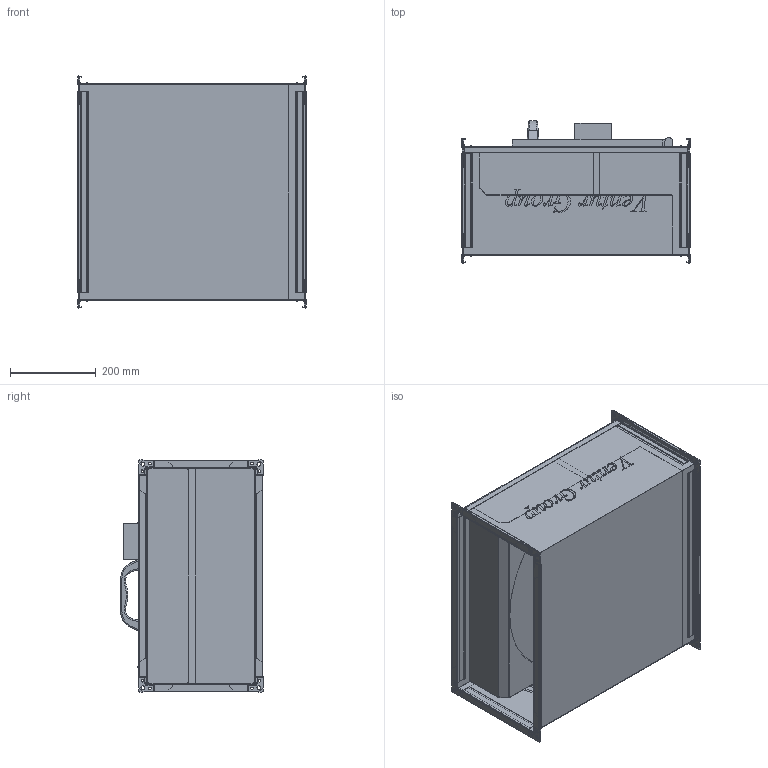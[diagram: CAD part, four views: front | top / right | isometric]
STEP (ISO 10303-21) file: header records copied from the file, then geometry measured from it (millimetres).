
FILE_DESCRIPTION(/* description */ (''),/* implementation_level */ '2;1');
FILE_NAME(/* name */ 'C:\Users\M.Janczarek\Documents\Modele uproszczone\IBF EC\IBF_EC_280S 41010036\IBF_EC_280S 41010036\IBF_EC_280S 41010036.stp',/* time_stamp */ '2018-03-30T10:26:30+02:00',/* author */ ('M.Janczarek'),/* organization */ (''),/* preprocessor_version */ 'ST-DEVELOPER v16.5',/* originating_system */ 'Autodesk Inventor 2017',/* authorisation */ '');
FILE_SCHEMA (('AUTOMOTIVE_DESIGN { 1 0 10303 214 3 1 1 }'));
Products named in the file (1): IBF_EC_280S 41010036
Bounding box: 531.6 x 331.49 x 539.97 mm (x, y, z)
Volume: 8128478.8 mm3; surface area: 3081922 mm2
Topology: 1 solids, 2 shells, 1723 faces, 4913 edges, 3160 vertices
Faces by surface type: plane 782, cylinder 476, bspline 361, torus 64, cone 24, sphere 16
Full cylindrical faces by diameter (mm): 6 x16, 9 x8, 170 x1, 252 x1
Entity records: 61776 total; most frequent: CARTESIAN_POINT 17109, ORIENTED_EDGE 9742, DIRECTION 8033, EDGE_CURVE 4871, VERTEX_POINT 3160, LINE 3023, VECTOR 3023, AXIS2_PLACEMENT_3D 2505
